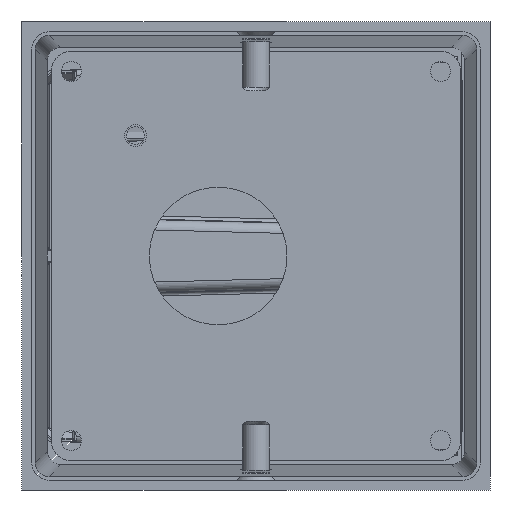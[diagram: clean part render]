
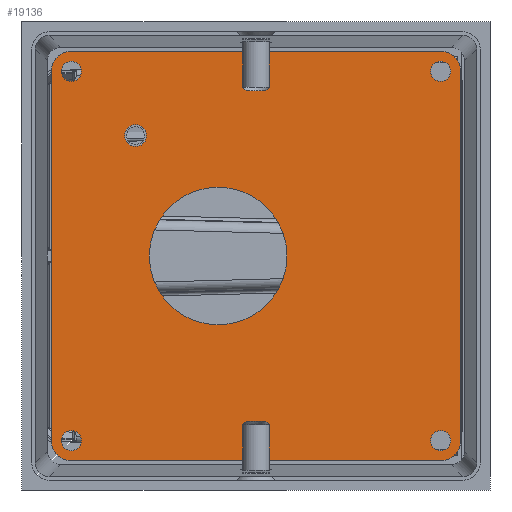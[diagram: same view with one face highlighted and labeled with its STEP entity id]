
A CAD part, front view. The second image highlights one B-rep face of the part: STEP entity #19136.
In plain terms, the highlighted planar face has unit normal (0, -1, 0).
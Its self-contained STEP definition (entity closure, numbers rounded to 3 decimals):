
#18919=CARTESIAN_POINT('',(-26.825,-14.,26.825));
#18920=DIRECTION('',(0.,-1.,0.));
#18921=DIRECTION('',(-1.,0.,0.));
#18922=AXIS2_PLACEMENT_3D('',#18919,#18920,#18921);
#18924=CARTESIAN_POINT('',(-26.825,-14.,26.825));
#18925=DIRECTION('',(0.,-1.,0.));
#18926=DIRECTION('',(1.,0.,0.));
#18927=AXIS2_PLACEMENT_3D('',#18924,#18925,#18926);
#18929=CARTESIAN_POINT('',(26.825,-14.,-26.825));
#18930=DIRECTION('',(0.,-1.,0.));
#18931=DIRECTION('',(1.,0.,0.));
#18932=AXIS2_PLACEMENT_3D('',#18929,#18930,#18931);
#18934=CARTESIAN_POINT('',(26.825,-14.,-26.825));
#18935=DIRECTION('',(0.,-1.,0.));
#18936=DIRECTION('',(-1.,0.,0.));
#18937=AXIS2_PLACEMENT_3D('',#18934,#18935,#18936);
#18939=CARTESIAN_POINT('',(26.825,-14.,26.825));
#18940=DIRECTION('',(0.,-1.,0.));
#18941=DIRECTION('',(0.,0.,1.));
#18942=AXIS2_PLACEMENT_3D('',#18939,#18940,#18941);
#18944=CARTESIAN_POINT('',(26.825,-14.,26.825));
#18945=DIRECTION('',(0.,-1.,0.));
#18946=DIRECTION('',(0.,0.,-1.));
#18947=AXIS2_PLACEMENT_3D('',#18944,#18945,#18946);
#18949=CARTESIAN_POINT('',(-5.5,-14.,0.));
#18950=DIRECTION('',(0.,1.,0.));
#18951=DIRECTION('',(0.,0.,-1.));
#18952=AXIS2_PLACEMENT_3D('',#18949,#18950,#18951);
#18954=CARTESIAN_POINT('',(-5.5,-14.,0.));
#18955=DIRECTION('',(0.,1.,0.));
#18956=DIRECTION('',(0.,0.,1.));
#18957=AXIS2_PLACEMENT_3D('',#18954,#18955,#18956);
#18959=CARTESIAN_POINT('',(-26.825,-14.,-26.825));
#18960=DIRECTION('',(0.,-1.,0.));
#18961=DIRECTION('',(0.,0.,-1.));
#18962=AXIS2_PLACEMENT_3D('',#18959,#18960,#18961);
#18964=CARTESIAN_POINT('',(-26.825,-14.,-26.825));
#18965=DIRECTION('',(0.,-1.,0.));
#18966=DIRECTION('',(0.,0.,1.));
#18967=AXIS2_PLACEMENT_3D('',#18964,#18965,#18966);
#18969=CARTESIAN_POINT('',(-27.,-14.,27.));
#18970=DIRECTION('',(0.,1.,0.));
#18971=DIRECTION('',(-1.,0.,0.));
#18972=AXIS2_PLACEMENT_3D('',#18969,#18970,#18971);
#18974=DIRECTION('',(1.,0.,0.));
#18975=VECTOR('',#18974,54.);
#18976=CARTESIAN_POINT('',(-27.,-14.,29.7));
#18977=LINE('',#18976,#18975);
#18978=CARTESIAN_POINT('',(27.,-14.,27.));
#18979=DIRECTION('',(0.,1.,0.));
#18980=DIRECTION('',(0.,0.,1.));
#18981=AXIS2_PLACEMENT_3D('',#18978,#18979,#18980);
#18983=DIRECTION('',(0.,0.,-1.));
#18984=VECTOR('',#18983,54.);
#18985=CARTESIAN_POINT('',(29.7,-14.,27.));
#18986=LINE('',#18985,#18984);
#18987=CARTESIAN_POINT('',(27.,-14.,-27.));
#18988=DIRECTION('',(0.,1.,0.));
#18989=DIRECTION('',(1.,0.,0.));
#18990=AXIS2_PLACEMENT_3D('',#18987,#18988,#18989);
#18992=DIRECTION('',(-1.,0.,0.));
#18993=VECTOR('',#18992,54.);
#18994=CARTESIAN_POINT('',(27.,-14.,-29.7));
#18995=LINE('',#18994,#18993);
#18996=CARTESIAN_POINT('',(-27.,-14.,-27.));
#18997=DIRECTION('',(0.,1.,0.));
#18998=DIRECTION('',(0.,0.,-1.));
#18999=AXIS2_PLACEMENT_3D('',#18996,#18997,#18998);
#19001=DIRECTION('',(0.,0.,1.));
#19002=VECTOR('',#19001,54.);
#19003=CARTESIAN_POINT('',(-29.7,-14.,-27.));
#19004=LINE('',#19003,#19002);
#19005=CARTESIAN_POINT('',(-17.5,-14.,17.5));
#19006=DIRECTION('',(0.,-1.,0.));
#19007=DIRECTION('',(1.,0.,0.));
#19008=AXIS2_PLACEMENT_3D('',#19005,#19006,#19007);
#19010=CARTESIAN_POINT('',(-17.5,-14.,17.5));
#19011=DIRECTION('',(0.,-1.,0.));
#19012=DIRECTION('',(-1.,0.,0.));
#19013=AXIS2_PLACEMENT_3D('',#19010,#19011,#19012);
#19037=CARTESIAN_POINT('',(-5.5,-14.,-10.));
#19038=CARTESIAN_POINT('',(-5.5,-14.,10.));
#19039=VERTEX_POINT('',#19037);
#19040=VERTEX_POINT('',#19038);
#19041=CARTESIAN_POINT('',(26.825,-14.,25.375));
#19042=CARTESIAN_POINT('',(26.825,-14.,28.275));
#19043=VERTEX_POINT('',#19041);
#19044=VERTEX_POINT('',#19042);
#19045=CARTESIAN_POINT('',(25.375,-14.,-26.825));
#19046=CARTESIAN_POINT('',(28.275,-14.,-26.825));
#19047=VERTEX_POINT('',#19045);
#19048=VERTEX_POINT('',#19046);
#19049=CARTESIAN_POINT('',(-26.825,-14.,-25.375));
#19050=CARTESIAN_POINT('',(-26.825,-14.,-28.275));
#19051=VERTEX_POINT('',#19049);
#19052=VERTEX_POINT('',#19050);
#19053=CARTESIAN_POINT('',(-25.375,-14.,26.825));
#19054=CARTESIAN_POINT('',(-28.275,-14.,26.825));
#19055=VERTEX_POINT('',#19053);
#19056=VERTEX_POINT('',#19054);
#19057=CARTESIAN_POINT('',(-29.7,-14.,27.));
#19058=CARTESIAN_POINT('',(-27.,-14.,29.7));
#19059=VERTEX_POINT('',#19057);
#19060=VERTEX_POINT('',#19058);
#19061=CARTESIAN_POINT('',(-29.7,-14.,-27.));
#19062=VERTEX_POINT('',#19061);
#19063=CARTESIAN_POINT('',(-27.,-14.,-29.7));
#19064=VERTEX_POINT('',#19063);
#19065=CARTESIAN_POINT('',(27.,-14.,-29.7));
#19066=VERTEX_POINT('',#19065);
#19067=CARTESIAN_POINT('',(29.7,-14.,-27.));
#19068=VERTEX_POINT('',#19067);
#19069=CARTESIAN_POINT('',(29.7,-14.,27.));
#19070=VERTEX_POINT('',#19069);
#19071=CARTESIAN_POINT('',(27.,-14.,29.7));
#19072=VERTEX_POINT('',#19071);
#19073=CARTESIAN_POINT('',(-15.9,-14.,17.5));
#19074=CARTESIAN_POINT('',(-19.1,-14.,17.5));
#19075=VERTEX_POINT('',#19073);
#19076=VERTEX_POINT('',#19074);
#19077=CARTESIAN_POINT('',(0.,-14.,0.));
#19078=DIRECTION('',(0.,1.,0.));
#19079=DIRECTION('',(-1.,0.,0.));
#19080=AXIS2_PLACEMENT_3D('',#19077,#19078,#19079);
#19081=PLANE('',#19080);
#19083=ORIENTED_EDGE('',*,*,#19082,.T.);
#19085=ORIENTED_EDGE('',*,*,#19084,.T.);
#19087=ORIENTED_EDGE('',*,*,#19086,.T.);
#19089=ORIENTED_EDGE('',*,*,#19088,.T.);
#19091=ORIENTED_EDGE('',*,*,#19090,.T.);
#19093=ORIENTED_EDGE('',*,*,#19092,.T.);
#19095=ORIENTED_EDGE('',*,*,#19094,.T.);
#19097=ORIENTED_EDGE('',*,*,#19096,.T.);
#19098=EDGE_LOOP('',(#19083,#19085,#19087,#19089,#19091,#19093,#19095,#19097));
#19099=FACE_OUTER_BOUND('',#19098,.F.);
#19101=ORIENTED_EDGE('',*,*,#19100,.T.);
#19103=ORIENTED_EDGE('',*,*,#19102,.T.);
#19104=EDGE_LOOP('',(#19101,#19103));
#19105=FACE_BOUND('',#19104,.F.);
#19107=ORIENTED_EDGE('',*,*,#19106,.T.);
#19109=ORIENTED_EDGE('',*,*,#19108,.T.);
#19110=EDGE_LOOP('',(#19107,#19109));
#19111=FACE_BOUND('',#19110,.F.);
#19113=ORIENTED_EDGE('',*,*,#19112,.F.);
#19115=ORIENTED_EDGE('',*,*,#19114,.F.);
#19116=EDGE_LOOP('',(#19113,#19115));
#19117=FACE_BOUND('',#19116,.F.);
#19119=ORIENTED_EDGE('',*,*,#19118,.T.);
#19121=ORIENTED_EDGE('',*,*,#19120,.T.);
#19122=EDGE_LOOP('',(#19119,#19121));
#19123=FACE_BOUND('',#19122,.F.);
#19125=ORIENTED_EDGE('',*,*,#19124,.T.);
#19127=ORIENTED_EDGE('',*,*,#19126,.T.);
#19128=EDGE_LOOP('',(#19125,#19127));
#19129=FACE_BOUND('',#19128,.F.);
#19131=ORIENTED_EDGE('',*,*,#19130,.T.);
#19133=ORIENTED_EDGE('',*,*,#19132,.T.);
#19134=EDGE_LOOP('',(#19131,#19133));
#19135=FACE_BOUND('',#19134,.F.);
#19136=ADVANCED_FACE('',(#19099,#19105,#19111,#19117,#19123,#19129,#19135),
#19081,.F.);
#18923=CIRCLE('',#18922,1.45);
#18928=CIRCLE('',#18927,1.45);
#18933=CIRCLE('',#18932,1.45);
#18938=CIRCLE('',#18937,1.45);
#18943=CIRCLE('',#18942,1.45);
#18948=CIRCLE('',#18947,1.45);
#18953=CIRCLE('',#18952,10.);
#18958=CIRCLE('',#18957,10.);
#18963=CIRCLE('',#18962,1.45);
#18968=CIRCLE('',#18967,1.45);
#18973=CIRCLE('',#18972,2.7);
#18982=CIRCLE('',#18981,2.7);
#18991=CIRCLE('',#18990,2.7);
#19000=CIRCLE('',#18999,2.7);
#19009=CIRCLE('',#19008,1.6);
#19014=CIRCLE('',#19013,1.6);
#19082=EDGE_CURVE('',#19059,#19060,#18973,.T.);
#19084=EDGE_CURVE('',#19060,#19072,#18977,.T.);
#19086=EDGE_CURVE('',#19072,#19070,#18982,.T.);
#19088=EDGE_CURVE('',#19070,#19068,#18986,.T.);
#19090=EDGE_CURVE('',#19068,#19066,#18991,.T.);
#19092=EDGE_CURVE('',#19066,#19064,#18995,.T.);
#19094=EDGE_CURVE('',#19064,#19062,#19000,.T.);
#19096=EDGE_CURVE('',#19062,#19059,#19004,.T.);
#19100=EDGE_CURVE('',#19048,#19047,#18933,.T.);
#19102=EDGE_CURVE('',#19047,#19048,#18938,.T.);
#19106=EDGE_CURVE('',#19044,#19043,#18943,.T.);
#19108=EDGE_CURVE('',#19043,#19044,#18948,.T.);
#19112=EDGE_CURVE('',#19039,#19040,#18953,.T.);
#19114=EDGE_CURVE('',#19040,#19039,#18958,.T.);
#19118=EDGE_CURVE('',#19052,#19051,#18963,.T.);
#19120=EDGE_CURVE('',#19051,#19052,#18968,.T.);
#19124=EDGE_CURVE('',#19056,#19055,#18923,.T.);
#19126=EDGE_CURVE('',#19055,#19056,#18928,.T.);
#19130=EDGE_CURVE('',#19075,#19076,#19009,.T.);
#19132=EDGE_CURVE('',#19076,#19075,#19014,.T.);
